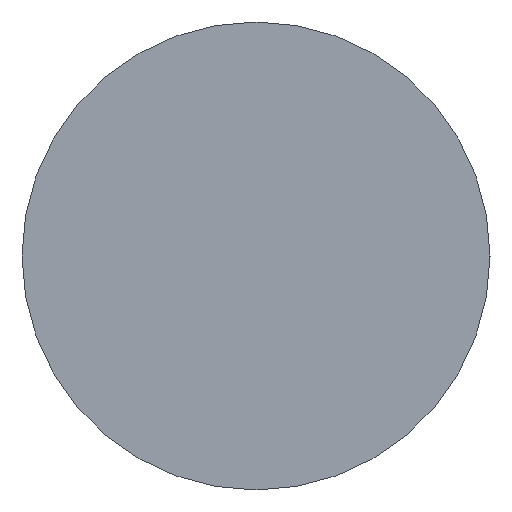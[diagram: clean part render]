
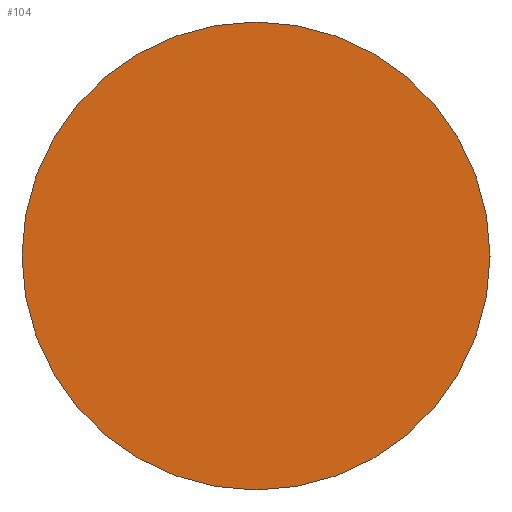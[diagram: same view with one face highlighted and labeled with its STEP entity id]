
A CAD part, left-side view. The second image highlights one B-rep face of the part: STEP entity #104.
In plain terms, the highlighted planar face has unit normal (-1, 0, 0).
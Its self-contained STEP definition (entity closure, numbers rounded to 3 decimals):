
#21 = EDGE_CURVE('',#22,#22,#24,.T.);
#22 = VERTEX_POINT('',#23);
#23 = CARTESIAN_POINT('',(-101.28,-65.,50.355));
#24 = SURFACE_CURVE('',#25,(#30,#42),.PCURVE_S1.);
#25 = CIRCLE('',#26,3.355);
#26 = AXIS2_PLACEMENT_3D('',#27,#28,#29);
#27 = CARTESIAN_POINT('',(-101.28,-65.,47.));
#28 = DIRECTION('',(-1.,0.,0.));
#29 = DIRECTION('',(0.,0.,1.));
#30 = PCURVE('',#31,#36);
#31 = CYLINDRICAL_SURFACE('',#32,3.355);
#32 = AXIS2_PLACEMENT_3D('',#33,#34,#35);
#33 = CARTESIAN_POINT('',(-74.,-65.,47.));
#34 = DIRECTION('',(-1.,0.,0.));
#35 = DIRECTION('',(0.,0.,-1.));
#36 = DEFINITIONAL_REPRESENTATION('',(#37),#41);
#37 = LINE('',#38,#39);
#38 = CARTESIAN_POINT('',(3.142,27.28));
#39 = VECTOR('',#40,1.);
#40 = DIRECTION('',(1.,0.));
#41 = ( GEOMETRIC_REPRESENTATION_CONTEXT(2) 
PARAMETRIC_REPRESENTATION_CONTEXT() REPRESENTATION_CONTEXT('2D SPACE',''
  ) );
#42 = PCURVE('',#43,#48);
#43 = PLANE('',#44);
#44 = AXIS2_PLACEMENT_3D('',#45,#46,#47);
#45 = CARTESIAN_POINT('',(-101.28,-65.,47.));
#46 = DIRECTION('',(-1.,0.,0.));
#47 = DIRECTION('',(0.,0.,-1.));
#48 = DEFINITIONAL_REPRESENTATION('',(#49),#53);
#49 = CIRCLE('',#50,3.355);
#50 = AXIS2_PLACEMENT_2D('',#51,#52);
#51 = CARTESIAN_POINT('',(0.,0.));
#52 = DIRECTION('',(-1.,-0.));
#53 = ( GEOMETRIC_REPRESENTATION_CONTEXT(2) 
PARAMETRIC_REPRESENTATION_CONTEXT() REPRESENTATION_CONTEXT('2D SPACE',''
  ) );
#104 = ADVANCED_FACE('',(#105),#43,.T.);
#105 = FACE_BOUND('',#106,.T.);
#106 = EDGE_LOOP('',(#107));
#107 = ORIENTED_EDGE('',*,*,#21,.T.);
